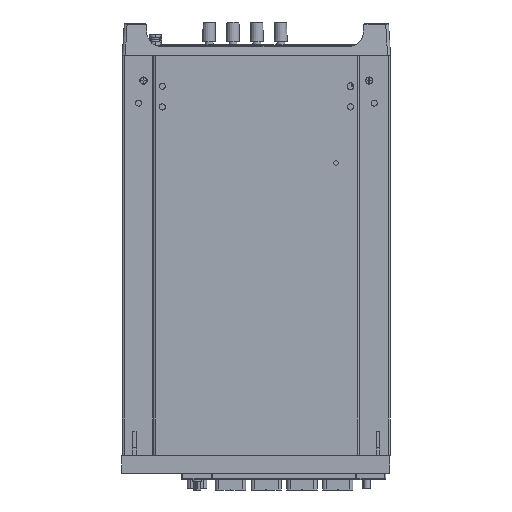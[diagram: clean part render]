
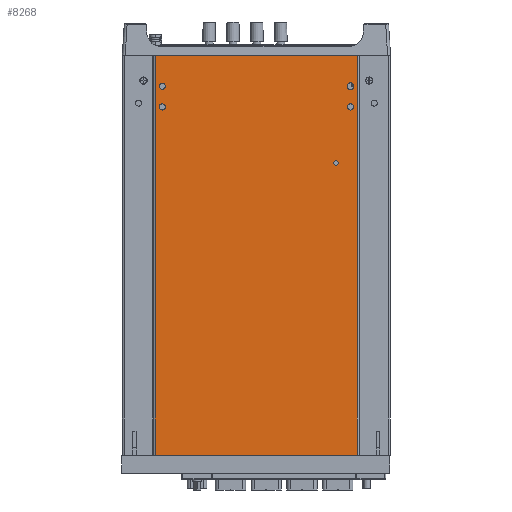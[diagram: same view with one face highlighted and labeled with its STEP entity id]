
A CAD part, front view. The second image highlights one B-rep face of the part: STEP entity #8268.
In plain terms, the highlighted planar face has unit normal (0, -1, 0).
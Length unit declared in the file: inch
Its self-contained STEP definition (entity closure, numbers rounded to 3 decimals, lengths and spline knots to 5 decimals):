
#3570=CARTESIAN_POINT('',(-7.015,0.,-1.72));
#3571=DIRECTION('',(0.,1.,0.));
#3572=DIRECTION('',(1.,0.,0.));
#3573=AXIS2_PLACEMENT_3D('',#3570,#3571,#3572);
#3578=CARTESIAN_POINT('',(-7.015,0.,-1.72));
#3579=DIRECTION('',(0.,1.,0.));
#3580=DIRECTION('',(-1.,0.,0.));
#3581=AXIS2_PLACEMENT_3D('',#3578,#3579,#3580);
#3586=CARTESIAN_POINT('',(-7.015,0.,-1.07));
#3587=DIRECTION('',(0.,1.,0.));
#3588=DIRECTION('',(1.,0.,0.));
#3589=AXIS2_PLACEMENT_3D('',#3586,#3587,#3588);
#3594=CARTESIAN_POINT('',(-7.015,0.,-1.07));
#3595=DIRECTION('',(0.,1.,0.));
#3596=DIRECTION('',(-1.,0.,0.));
#3597=AXIS2_PLACEMENT_3D('',#3594,#3595,#3596);
#3602=CARTESIAN_POINT('',(-1.105,0.,-1.72));
#3603=DIRECTION('',(0.,1.,0.));
#3604=DIRECTION('',(1.,0.,0.));
#3605=AXIS2_PLACEMENT_3D('',#3602,#3603,#3604);
#3610=CARTESIAN_POINT('',(-1.105,0.,-1.72));
#3611=DIRECTION('',(0.,1.,0.));
#3612=DIRECTION('',(-1.,0.,0.));
#3613=AXIS2_PLACEMENT_3D('',#3610,#3611,#3612);
#3618=CARTESIAN_POINT('',(-1.105,0.,-1.07));
#3619=DIRECTION('',(0.,1.,0.));
#3620=DIRECTION('',(1.,0.,0.));
#3621=AXIS2_PLACEMENT_3D('',#3618,#3619,#3620);
#3626=CARTESIAN_POINT('',(-1.105,0.,-1.07));
#3627=DIRECTION('',(0.,1.,0.));
#3628=DIRECTION('',(-1.,0.,0.));
#3629=AXIS2_PLACEMENT_3D('',#3626,#3627,#3628);
#3634=CARTESIAN_POINT('',(-1.56,0.,-3.48));
#3635=DIRECTION('',(0.,1.,0.));
#3636=DIRECTION('',(1.,0.,0.));
#3637=AXIS2_PLACEMENT_3D('',#3634,#3635,#3636);
#3642=CARTESIAN_POINT('',(-1.56,0.,-3.48));
#3643=DIRECTION('',(0.,1.,0.));
#3644=DIRECTION('',(-1.,0.,0.));
#3645=AXIS2_PLACEMENT_3D('',#3642,#3643,#3644);
#3650=DIRECTION('',(-1.,0.,0.));
#3651=VECTOR('',#3650,6.346);
#3652=CARTESIAN_POINT('',(-0.887,0.,-0.1));
#3653=LINE('',#3652,#3651);
#3657=DIRECTION('',(0.,0.,-1.));
#3658=VECTOR('',#3657,12.55);
#3659=CARTESIAN_POINT('',(-0.887,0.,-0.1));
#3660=LINE('',#3659,#3658);
#3664=DIRECTION('',(-1.,0.,0.));
#3665=VECTOR('',#3664,6.346);
#3666=CARTESIAN_POINT('',(-0.887,0.,-12.65));
#3667=LINE('',#3666,#3665);
#4117=DIRECTION('',(0.,0.,-1.));
#4118=VECTOR('',#4117,12.55);
#4119=CARTESIAN_POINT('',(-7.233,0.,-0.1));
#4120=LINE('',#4119,#4118);
#4918=CARTESIAN_POINT('',(-0.887,0.,-12.65));
#4919=CARTESIAN_POINT('',(-7.233,0.,-12.65));
#4920=VERTEX_POINT('',#4918);
#4921=VERTEX_POINT('',#4919);
#4958=CARTESIAN_POINT('',(-6.9185,0.,-1.72));
#4959=CARTESIAN_POINT('',(-7.1115,0.,-1.72));
#4960=VERTEX_POINT('',#4958);
#4961=VERTEX_POINT('',#4959);
#4962=CARTESIAN_POINT('',(-6.9215,0.,-1.07));
#4963=CARTESIAN_POINT('',(-7.1085,0.,-1.07));
#4964=VERTEX_POINT('',#4962);
#4965=VERTEX_POINT('',#4963);
#4966=CARTESIAN_POINT('',(-1.0085,0.,-1.72));
#4967=CARTESIAN_POINT('',(-1.2015,0.,-1.72));
#4968=VERTEX_POINT('',#4966);
#4969=VERTEX_POINT('',#4967);
#4970=CARTESIAN_POINT('',(-0.9985,0.,-1.07));
#4971=CARTESIAN_POINT('',(-1.2115,0.,-1.07));
#4972=VERTEX_POINT('',#4970);
#4973=VERTEX_POINT('',#4971);
#5022=CARTESIAN_POINT('',(-1.49075,0.,-3.48));
#5023=CARTESIAN_POINT('',(-1.62925,0.,-3.48));
#5024=VERTEX_POINT('',#5022);
#5025=VERTEX_POINT('',#5023);
#5178=CARTESIAN_POINT('',(-0.887,0.,-0.1));
#5179=VERTEX_POINT('',#5178);
#5180=CARTESIAN_POINT('',(-7.233,0.,-0.1));
#5181=VERTEX_POINT('',#5180);
#8225=CARTESIAN_POINT('',(-0.887,0.,0.));
#8226=DIRECTION('',(0.,-1.,0.));
#8227=DIRECTION('',(-1.,0.,0.));
#8228=AXIS2_PLACEMENT_3D('',#8225,#8226,#8227);
#8229=PLANE('',#8228);
#8231=ORIENTED_EDGE('',*,*,#8230,.F.);
#8233=ORIENTED_EDGE('',*,*,#8232,.T.);
#8235=ORIENTED_EDGE('',*,*,#8234,.T.);
#8237=ORIENTED_EDGE('',*,*,#8236,.F.);
#8238=EDGE_LOOP('',(#8231,#8233,#8235,#8237));
#8239=FACE_OUTER_BOUND('',#8238,.F.);
#8241=ORIENTED_EDGE('',*,*,#8240,.F.);
#8243=ORIENTED_EDGE('',*,*,#8242,.F.);
#8244=EDGE_LOOP('',(#8241,#8243));
#8245=FACE_BOUND('',#8244,.F.);
#8247=ORIENTED_EDGE('',*,*,#8246,.F.);
#8249=ORIENTED_EDGE('',*,*,#8248,.F.);
#8250=EDGE_LOOP('',(#8247,#8249));
#8251=FACE_BOUND('',#8250,.F.);
#8253=ORIENTED_EDGE('',*,*,#8252,.F.);
#8255=ORIENTED_EDGE('',*,*,#8254,.F.);
#8256=EDGE_LOOP('',(#8253,#8255));
#8257=FACE_BOUND('',#8256,.F.);
#8259=ORIENTED_EDGE('',*,*,#8258,.F.);
#8261=ORIENTED_EDGE('',*,*,#8260,.F.);
#8262=EDGE_LOOP('',(#8259,#8261));
#8263=FACE_BOUND('',#8262,.F.);
#8264=ORIENTED_EDGE('',*,*,#8205,.F.);
#8265=ORIENTED_EDGE('',*,*,#8219,.F.);
#8266=EDGE_LOOP('',(#8264,#8265));
#8267=FACE_BOUND('',#8266,.F.);
#8268=ADVANCED_FACE('',(#8239,#8245,#8251,#8257,#8263,#8267),#8229,.T.);
#3574=CIRCLE('',#3573,0.0965);
#3582=CIRCLE('',#3581,0.0965);
#3590=CIRCLE('',#3589,0.0935);
#3598=CIRCLE('',#3597,0.0935);
#3606=CIRCLE('',#3605,0.0965);
#3614=CIRCLE('',#3613,0.0965);
#3622=CIRCLE('',#3621,0.1065);
#3630=CIRCLE('',#3629,0.1065);
#3638=CIRCLE('',#3637,0.06925);
#3646=CIRCLE('',#3645,0.06925);
#8205=EDGE_CURVE('',#4960,#4961,#3574,.T.);
#8219=EDGE_CURVE('',#4961,#4960,#3582,.T.);
#8230=EDGE_CURVE('',#5179,#5181,#3653,.T.);
#8232=EDGE_CURVE('',#5179,#4920,#3660,.T.);
#8234=EDGE_CURVE('',#4920,#4921,#3667,.T.);
#8236=EDGE_CURVE('',#5181,#4921,#4120,.T.);
#8240=EDGE_CURVE('',#4964,#4965,#3590,.T.);
#8242=EDGE_CURVE('',#4965,#4964,#3598,.T.);
#8246=EDGE_CURVE('',#4968,#4969,#3606,.T.);
#8248=EDGE_CURVE('',#4969,#4968,#3614,.T.);
#8252=EDGE_CURVE('',#4972,#4973,#3622,.T.);
#8254=EDGE_CURVE('',#4973,#4972,#3630,.T.);
#8258=EDGE_CURVE('',#5024,#5025,#3638,.T.);
#8260=EDGE_CURVE('',#5025,#5024,#3646,.T.);
